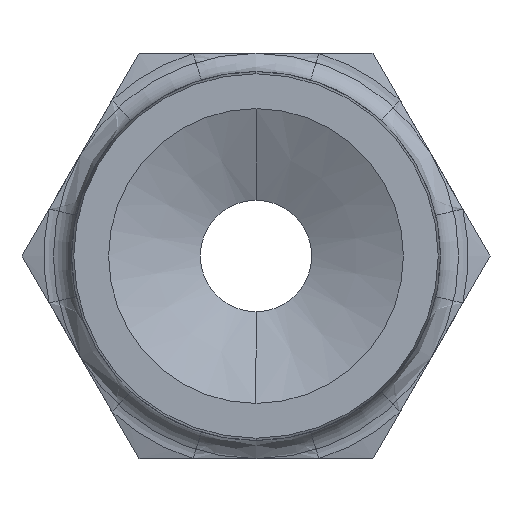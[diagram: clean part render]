
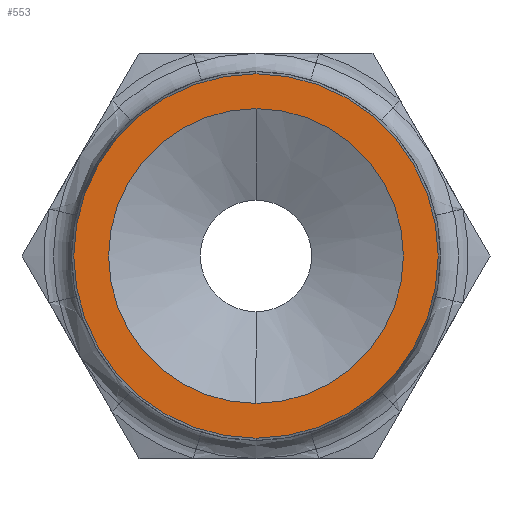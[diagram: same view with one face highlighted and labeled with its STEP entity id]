
A CAD part, left-side view. The second image highlights one B-rep face of the part: STEP entity #553.
In plain terms, the highlighted planar face has unit normal (-1, 0, 0).
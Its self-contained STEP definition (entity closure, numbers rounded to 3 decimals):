
#132 = VERTEX_POINT ( 'NONE', #933 ) ;
#134 = EDGE_CURVE ( 'NONE', #132, #135, #934, .T. ) ;
#135 = VERTEX_POINT ( 'NONE', #1036 ) ;
#268 = EDGE_CURVE ( 'NONE', #269, #270, #1513, .T. ) ;
#269 = VERTEX_POINT ( 'NONE', #1508 ) ;
#270 = VERTEX_POINT ( 'NONE', #1507 ) ;
#512 = ORIENTED_EDGE ( 'NONE', *, *, #268, .T. ) ;
#513 = EDGE_LOOP ( 'NONE', ( #514, #516 ) ) ;
#514 = ORIENTED_EDGE ( 'NONE', *, *, #515, .F. ) ;
#515 = EDGE_CURVE ( 'NONE', #135, #132, #1934, .T. ) ;
#516 = ORIENTED_EDGE ( 'NONE', *, *, #134, .F. ) ;
#553 = ADVANCED_FACE ( 'NONE', ( #1989, #1988 ), #1987, .T. ) ;
#554 = EDGE_LOOP ( 'NONE', ( #555, #512 ) ) ;
#555 = ORIENTED_EDGE ( 'NONE', *, *, #556, .T. ) ;
#556 = EDGE_CURVE ( 'NONE', #270, #269, #2031, .T. ) ;
#933 = CARTESIAN_POINT ( 'NONE',  ( -25.2, 0., -6.35 ) ) ;
#934 = CIRCLE ( 'NONE', #1040, 6.35 ) ;
#1036 = CARTESIAN_POINT ( 'NONE',  ( -25.2, 0., 6.35 ) ) ;
#1037 = DIRECTION ( 'NONE',  ( 0., 0., 1. ) ) ;
#1038 = DIRECTION ( 'NONE',  ( -1., 0., 0. ) ) ;
#1039 = CARTESIAN_POINT ( 'NONE',  ( -25.2, 0., 0. ) ) ;
#1040 = AXIS2_PLACEMENT_3D ( 'NONE', #1039, #1038, #1037 ) ;
#1507 = CARTESIAN_POINT ( 'NONE',  ( -25.2, 0., 7.849 ) ) ;
#1508 = CARTESIAN_POINT ( 'NONE',  ( -25.2, 0., -7.849 ) ) ;
#1509 = DIRECTION ( 'NONE',  ( 0., 0., 1. ) ) ;
#1510 = DIRECTION ( 'NONE',  ( -1., 0., 0. ) ) ;
#1511 = CARTESIAN_POINT ( 'NONE',  ( -25.2, 0., 0. ) ) ;
#1512 = AXIS2_PLACEMENT_3D ( 'NONE', #1511, #1510, #1509 ) ;
#1513 = CIRCLE ( 'NONE', #1512, 7.849 ) ;
#1926 = DIRECTION ( 'NONE',  ( 0., 0., 1. ) ) ;
#1927 = DIRECTION ( 'NONE',  ( -1., 0., 0. ) ) ;
#1928 = CARTESIAN_POINT ( 'NONE',  ( -25.2, 0., 0. ) ) ;
#1929 = AXIS2_PLACEMENT_3D ( 'NONE', #1928, #1927, #1926 ) ;
#1934 = CIRCLE ( 'NONE', #1929, 6.35 ) ;
#1983 = DIRECTION ( 'NONE',  ( -1., 0., 0. ) ) ;
#1984 = AXIS2_PLACEMENT_3D ( 'NONE', #1986, #1983, #2032 ) ;
#1985 = CARTESIAN_POINT ( 'NONE',  ( -25.2, 0., 0. ) ) ;
#1986 = CARTESIAN_POINT ( 'NONE',  ( -25.2, 0., 0. ) ) ;
#1987 = PLANE ( 'NONE',  #1984 ) ;
#1988 = FACE_BOUND ( 'NONE', #513, .T. ) ;
#1989 = FACE_OUTER_BOUND ( 'NONE', #554, .T. ) ;
#2028 = DIRECTION ( 'NONE',  ( 0., 0., 1. ) ) ;
#2029 = DIRECTION ( 'NONE',  ( -1., 0., 0. ) ) ;
#2030 = AXIS2_PLACEMENT_3D ( 'NONE', #1985, #2029, #2028 ) ;
#2031 = CIRCLE ( 'NONE', #2030, 7.849 ) ;
#2032 = DIRECTION ( 'NONE',  ( 0., 0., 1. ) ) ;
